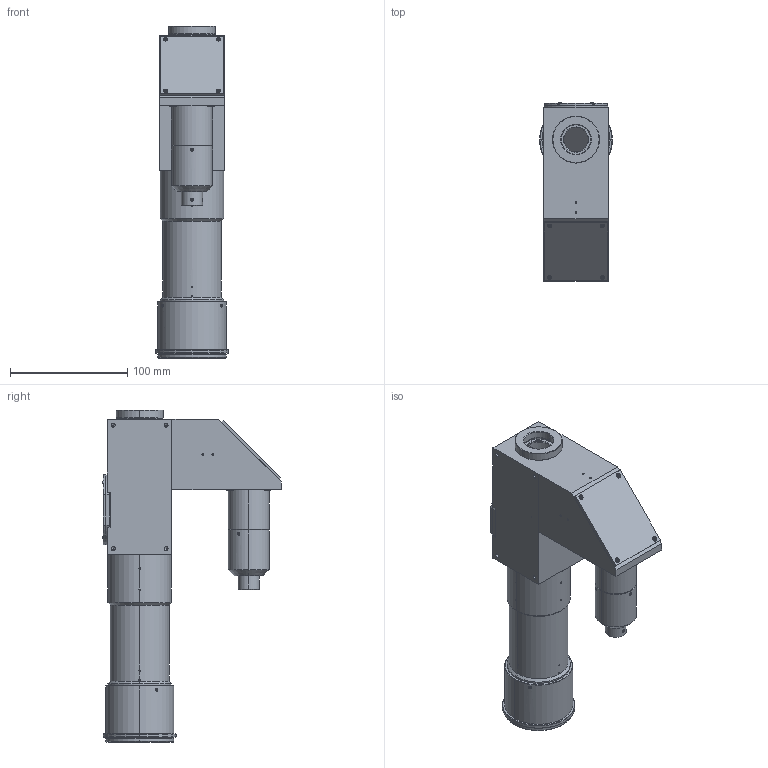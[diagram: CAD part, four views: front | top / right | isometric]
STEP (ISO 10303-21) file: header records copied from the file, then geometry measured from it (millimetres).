
FILE_DESCRIPTION (( 'STEP AP214' ), '1' );
FILE_NAME ('SOD-200-40M58.STEP', '2026-02-19T02:00:39', ( '' ), ( '' ), 'SwSTEP 2.0', 'SolidWorks 2025', '' );
FILE_SCHEMA (( 'AUTOMOTIVE_DESIGN' ));
Length unit declared in the file: millimetre
Products named in the file (1): SOD-200-40M58
Bounding box: 62 x 151.87 x 282.62 mm (x, y, z)
Volume: 903837.2 mm3; surface area: 112131.2 mm2
Topology: 1 solids, 40 shells, 1319 faces, 3141 edges, 1923 vertices
Faces by surface type: plane 549, cylinder 395, cone 291, torus 66, sphere 18
Entity records: 39823 total; most frequent: CARTESIAN_POINT 9627, DIRECTION 6531, ORIENTED_EDGE 6146, EDGE_CURVE 3073, AXIS2_PLACEMENT_3D 2624, VERTEX_POINT 1923, EDGE_LOOP 1426, ADVANCED_FACE 1319
